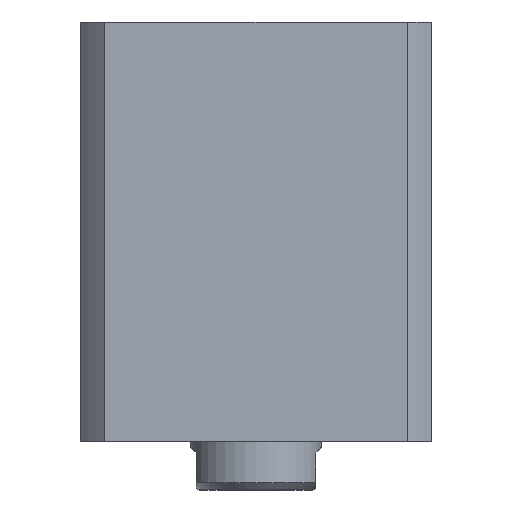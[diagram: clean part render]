
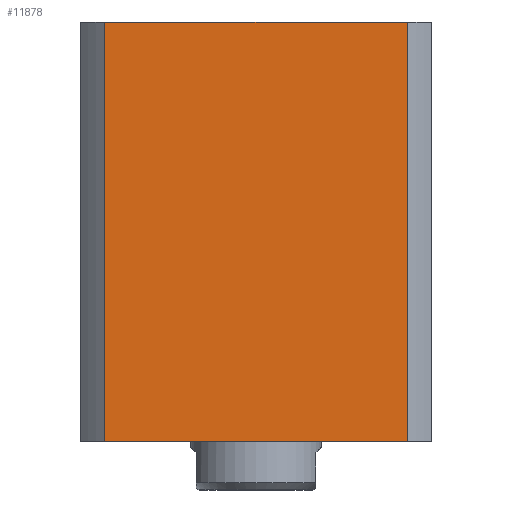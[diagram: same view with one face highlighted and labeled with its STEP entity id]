
A CAD part, front view. The second image highlights one B-rep face of the part: STEP entity #11878.
In plain terms, the highlighted planar face has unit normal (0, -1, 0) as drawn and (0, 1, 0) by its records, which use the part's own axes.
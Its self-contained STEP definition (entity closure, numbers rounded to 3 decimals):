
#272 = CARTESIAN_POINT ( 'NONE',  ( 40.435, 47., 0. ) ) ;
#648 = CARTESIAN_POINT ( 'NONE',  ( -47., 47., 112. ) ) ;
#827 = DIRECTION ( 'NONE',  ( 0., -1., 0. ) ) ;
#956 = EDGE_LOOP ( 'NONE', ( #16881, #9124, #15636, #12852 ) ) ;
#1703 = AXIS2_PLACEMENT_3D ( 'NONE', #648, #827, #10445 ) ;
#2116 = EDGE_CURVE ( 'NONE', #4517, #7799, #13803, .T. ) ;
#2827 = VECTOR ( 'NONE', #8284, 1000. ) ;
#3880 = CARTESIAN_POINT ( 'NONE',  ( -40.435, 47., -5888. ) ) ;
#4517 = VERTEX_POINT ( 'NONE', #16009 ) ;
#5063 = VECTOR ( 'NONE', #15080, 1000. ) ;
#7119 = CARTESIAN_POINT ( 'NONE',  ( -47., 47., 0. ) ) ;
#7377 = LINE ( 'NONE', #7119, #14264 ) ;
#7498 = EDGE_CURVE ( 'NONE', #10667, #16992, #16877, .T. ) ;
#7698 = PLANE ( 'NONE',  #1703 ) ;
#7799 = VERTEX_POINT ( 'NONE', #15368 ) ;
#8203 = CARTESIAN_POINT ( 'NONE',  ( -47., 47., 112. ) ) ;
#8254 = CARTESIAN_POINT ( 'NONE',  ( 40.435, 47., 112. ) ) ;
#8284 = DIRECTION ( 'NONE',  ( 0., 0., -1. ) ) ;
#9124 = ORIENTED_EDGE ( 'NONE', *, *, #10536, .T. ) ;
#10445 = DIRECTION ( 'NONE',  ( 0., 0., -1. ) ) ;
#10536 = EDGE_CURVE ( 'NONE', #10667, #7799, #7377, .T. ) ;
#10667 = VERTEX_POINT ( 'NONE', #272 ) ;
#10932 = CARTESIAN_POINT ( 'NONE',  ( 40.435, 47., -5888. ) ) ;
#11878 = ADVANCED_FACE ( 'NONE', ( #12740 ), #7698, .F. ) ;
#12740 = FACE_OUTER_BOUND ( 'NONE', #956, .T. ) ;
#12852 = ORIENTED_EDGE ( 'NONE', *, *, #17702, .F. ) ;
#13803 = LINE ( 'NONE', #3880, #2827 ) ;
#14264 = VECTOR ( 'NONE', #16738, 1000. ) ;
#15080 = DIRECTION ( 'NONE',  ( 0., 0., 1. ) ) ;
#15368 = CARTESIAN_POINT ( 'NONE',  ( -40.435, 47., 0. ) ) ;
#15402 = VECTOR ( 'NONE', #16437, 1000. ) ;
#15636 = ORIENTED_EDGE ( 'NONE', *, *, #2116, .F. ) ;
#16009 = CARTESIAN_POINT ( 'NONE',  ( -40.435, 47., 112. ) ) ;
#16437 = DIRECTION ( 'NONE',  ( -1., 0., 0. ) ) ;
#16706 = LINE ( 'NONE', #8203, #15402 ) ;
#16738 = DIRECTION ( 'NONE',  ( -1., 0., 0. ) ) ;
#16877 = LINE ( 'NONE', #10932, #5063 ) ;
#16881 = ORIENTED_EDGE ( 'NONE', *, *, #7498, .F. ) ;
#16992 = VERTEX_POINT ( 'NONE', #8254 ) ;
#17702 = EDGE_CURVE ( 'NONE', #16992, #4517, #16706, .T. ) ;
